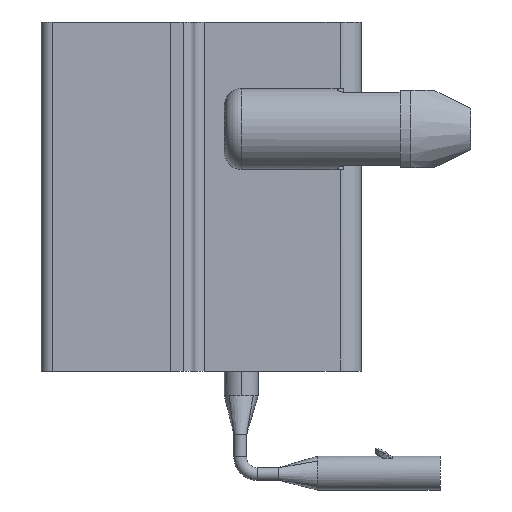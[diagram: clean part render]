
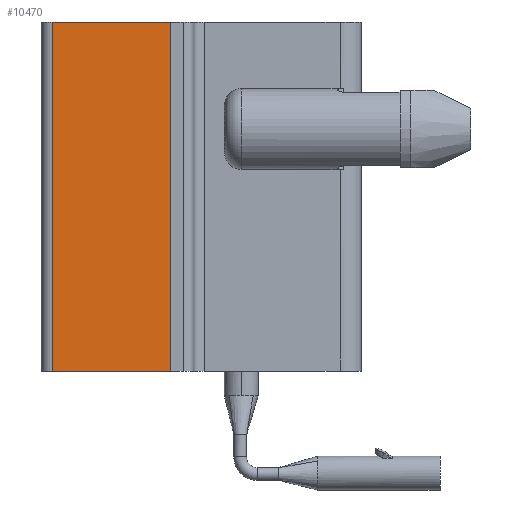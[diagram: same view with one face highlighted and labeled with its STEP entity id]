
A CAD part, left-side view. The second image highlights one B-rep face of the part: STEP entity #10470.
In plain terms, the highlighted planar face has unit normal (-1, 0, 0).
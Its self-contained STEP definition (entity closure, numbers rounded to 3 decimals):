
#164=DIRECTION('',(0.,1.,0.));
#165=VECTOR('',#164,5.525);
#166=CARTESIAN_POINT('',(-9.3,1.1,0.));
#167=LINE('',#166,#165);
#3146=DIRECTION('',(0.,0.,-1.));
#3147=VECTOR('',#3146,16.3);
#3148=CARTESIAN_POINT('',(-9.3,6.625,0.));
#3149=LINE('',#3148,#3147);
#3150=DIRECTION('',(0.,0.,1.));
#3151=VECTOR('',#3150,16.3);
#3152=CARTESIAN_POINT('',(-9.3,1.1,-16.3));
#3153=LINE('',#3152,#3151);
#3162=DIRECTION('',(0.,1.,0.));
#3163=VECTOR('',#3162,5.525);
#3164=CARTESIAN_POINT('',(-9.3,1.1,-16.3));
#3165=LINE('',#3164,#3163);
#5499=CARTESIAN_POINT('',(-9.3,1.1,0.));
#5501=VERTEX_POINT('',#5499);
#5511=CARTESIAN_POINT('',(-9.3,1.1,-16.3));
#5513=VERTEX_POINT('',#5511);
#5834=CARTESIAN_POINT('',(-9.3,6.625,0.));
#5835=VERTEX_POINT('',#5834);
#5838=CARTESIAN_POINT('',(-9.3,6.625,-16.3));
#5839=VERTEX_POINT('',#5838);
#10456=CARTESIAN_POINT('',(-9.3,7.125,0.));
#10457=DIRECTION('',(-1.,0.,0.));
#10458=DIRECTION('',(0.,-1.,0.));
#10459=AXIS2_PLACEMENT_3D('',#10456,#10457,#10458);
#10460=PLANE('',#10459);
#10461=ORIENTED_EDGE('',*,*,#6755,.F.);
#10463=ORIENTED_EDGE('',*,*,#10462,.F.);
#10465=ORIENTED_EDGE('',*,*,#10464,.T.);
#10467=ORIENTED_EDGE('',*,*,#10466,.F.);
#10468=EDGE_LOOP('',(#10461,#10463,#10465,#10467));
#10469=FACE_OUTER_BOUND('',#10468,.F.);
#6755=EDGE_CURVE('',#5501,#5835,#167,.T.);
#10462=EDGE_CURVE('',#5513,#5501,#3153,.T.);
#10464=EDGE_CURVE('',#5513,#5839,#3165,.T.);
#10466=EDGE_CURVE('',#5835,#5839,#3149,.T.);
#10470=ADVANCED_FACE('',(#10469),#10460,.T.);
